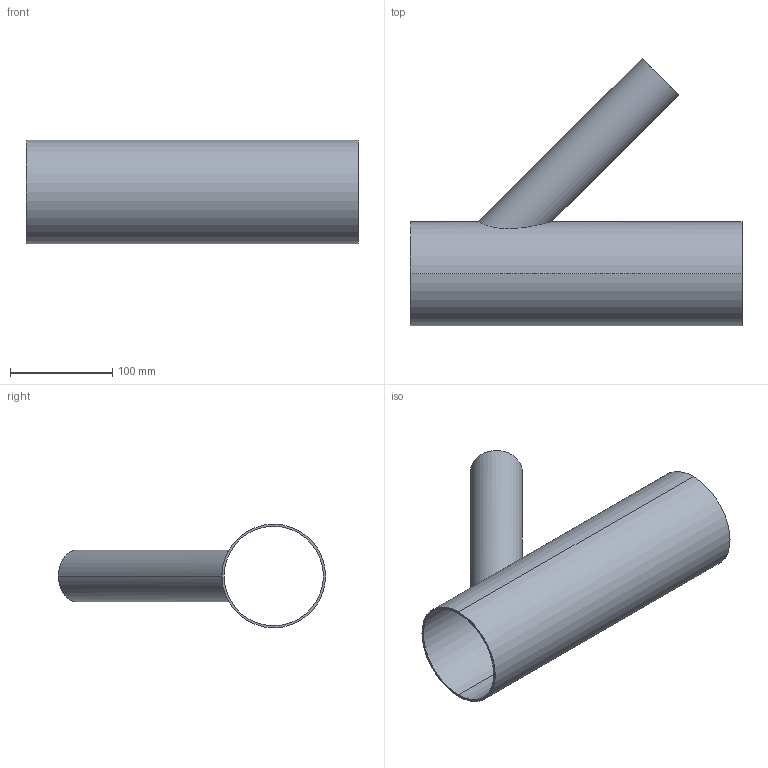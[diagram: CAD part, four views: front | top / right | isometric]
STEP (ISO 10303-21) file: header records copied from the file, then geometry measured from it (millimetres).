
FILE_DESCRIPTION (( 'STEP AP203' ), '1' );
FILE_NAME ('E28RWA 4.0X2.0.STEP', '2021-10-18T16:57:49', ( '' ), ( '' ), 'SwSTEP 2.0', 'SolidWorks 2021', '' );
FILE_SCHEMA (( 'CONFIG_CONTROL_DESIGN' ));
Length unit declared in the file: inch
Products named in the file (1): E28RWA 4.0X2.0
Bounding box: 325.42 x 261.84 x 101.6 mm (x, y, z)
Volume: 261406.4 mm3; surface area: 263426.4 mm2
Topology: 1 solids, 1 shells, 11 faces, 24 edges, 16 vertices
Faces by surface type: cylinder 8, plane 3
Entity records: 643 total; most frequent: CARTESIAN_POINT 306, DIRECTION 56, ORIENTED_EDGE 48, EDGE_CURVE 24, AXIS2_PLACEMENT_3D 24, VERTEX_POINT 16, EDGE_LOOP 16, CIRCLE 12
